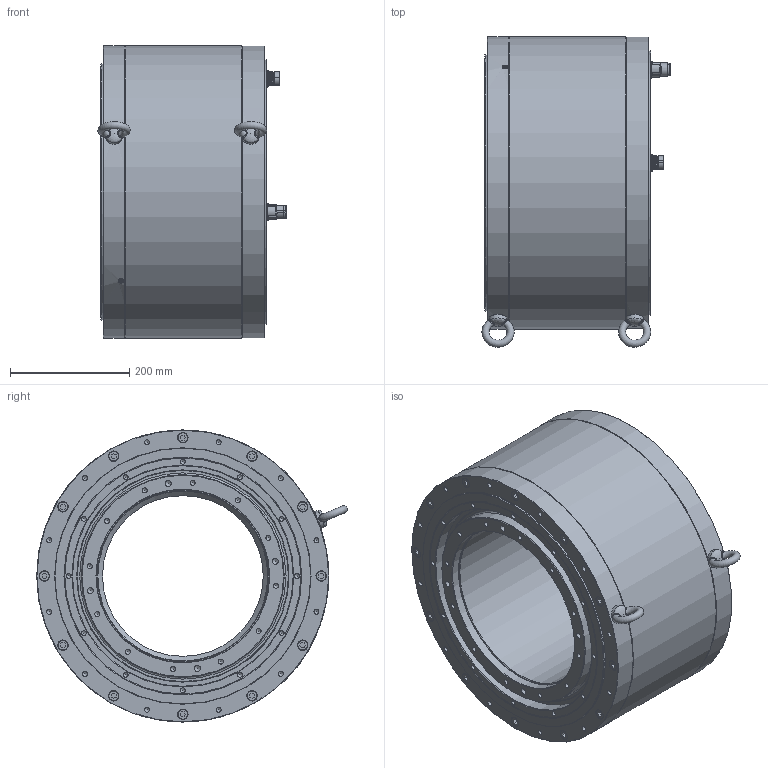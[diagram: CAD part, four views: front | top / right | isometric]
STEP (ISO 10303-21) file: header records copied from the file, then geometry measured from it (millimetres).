
FILE_DESCRIPTION( ( 'Unknown' ), '1' );
FILE_NAME( 'Q:/SKA DDR in acciaio/WEB File/SKA RT 430/3D/430CC039.stp', 'Unknown', ( 'Unknown' ), ( 'Unknown' ), 'PSStep 14.0', 'Unknown', ' ' );
FILE_SCHEMA( ( 'AUTOMOTIVE_DESIGN { 1 0 10303 214 1 1 1 1 }' ) );
Length unit declared in the file: millimetre
Products named in the file (17): Assem1; CN M23 PAN-POT BEGA 120 4 + 4 pin SpTcR; CN M23 PAN-SEG AEGA 139 17 pin SpTcR; 430VV006; Vite a brugola testa cil 8,8 -  M 2,5 x 8; Vite a brugola testa cil 12,9 -  M 10 x 50; Anello OR 3,53 D430,66-41700-oa0; Anello OR 3,53 D430,66-41700-oa1; Anello OR 3,53 D380,6-41500-oa2; Vite a brugola testa svasata 10,9 -  M  4 x 16; 430FF010; 430FC001; 430FP003; Golfare Maschio M12; Grano senza punta M  6 x 10; 430FS027; 430GG013
Assembly tree (53 placements, depth 2):
  Assem1
    CN M23 PAN-POT BEGA 120 4 + 4 pin SpTcR
    CN M23 PAN-SEG AEGA 139 17 pin SpTcR
    430VV006
    Vite a brugola testa cil 8,8 -  M 2,5 x 8  x8
    Vite a brugola testa cil 12,9 -  M 10 x 50  x24
    Anello OR 3,53 D430,66-41700-oa0
    Anello OR 3,53 D430,66-41700-oa1
    Anello OR 3,53 D380,6-41500-oa2
    Vite a brugola testa svasata 10,9 -  M  4 x 16  x6
    430FF010
    430FC001
    430FP003
    Golfare Maschio M12  x2
    Grano senza punta M  6 x 10  x2
    430FS027
    430GG013
Bounding box: 315.47 x 520.76 x 490 mm (x, y, z)
Volume: 21244856.4 mm3; surface area: 2463294.4 mm2
Topology: 53 solids, 53 shells, 1283 faces, 2927 edges, 1907 vertices
Faces by surface type: plane 555, cylinder 451, cone 221, torus 38, sphere 8, bspline 8, revolution 2
Full cylindrical faces by diameter (mm): 1.5 x4, 2 x17, 2.013 x8, 2.5 x12, 2.7 x4, 2.8 x4, 3.242 x16, 3.4 x6, 4 x8, 4.134 x12, 4.5 x6, 4.7 x8, 4.917 x2, 6 x2, 8 x12, 8.376 x96, 8.5 x12, 9 x2, 10 x32, 10.106 x4, 10.5 x36, 11 x2, 12 x2, 16 x24, 17 x2, 17.5 x24, 19.8 x2, 20 x3, 21 x2, 21.5 x2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
Entity records: 26073 total; most frequent: CARTESIAN_POINT 5151, DIRECTION 3467, ORIENTED_EDGE 2122, AXIS2_PLACEMENT_3D 1618, EDGE_LOOP 1568, FACE_OUTER_BOUND 1152, EDGE_CURVE 1061, VERTEX_POINT 1046
